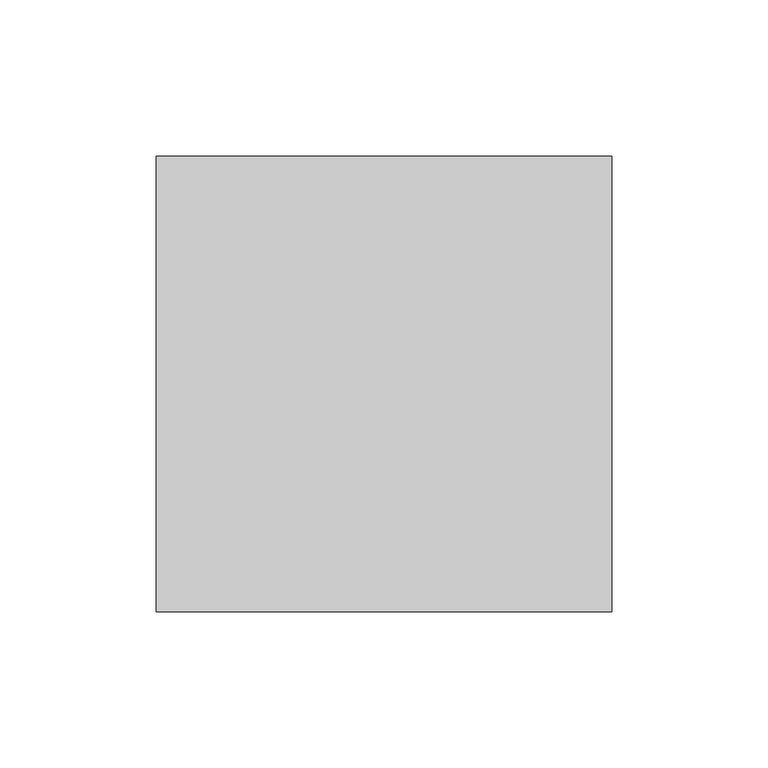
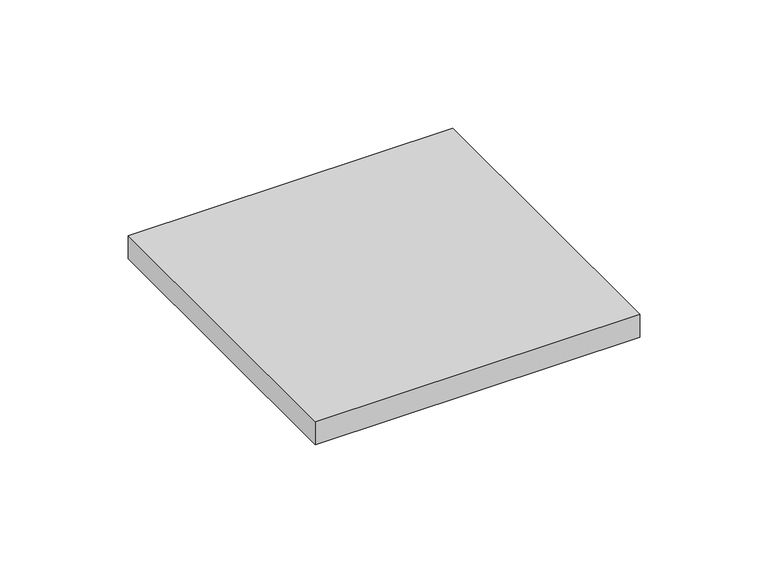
"""IFC4 building model written with IfcOpenShell, lengths in millimetres: sanitary terminal geometry, NLRS_PF_52_UN_Aqua Quattro_in_uitloop_Easydrain : Aqua Quattro onderuitloop 50mm, zij-ingang 40mm."""

import ifcopenshell
import ifcopenshell.guid

model = None  # the IFC model being written
_history = None  # IfcOwnerHistory: only IFC2X3 demands one
_inside = {}  # id of a spatial element -> (the spatial element, [elements in it])
_under = {}  # id of a project, library or spatial element -> (it, [spatial elements below it])
_declared = {}  # id of a project -> (the project, [libraries it declares])
_typed = {}  # id of a type object -> (the type object, [elements of that type])
_made_of = {}  # id of a material, layer set ... -> (it, [elements and type objects made of it])


def new_model(schema):
    """Start an empty IFC model of exactly this schema.

    Asked for "IFC4X3", IfcOpenShell would pick the latest addendum, in which some entities
    have other attributes; the version numbers below select the first issue.
    IFC2X3 requires an IfcOwnerHistory on every rooted entity: one is made here for all.
    """
    global model, _history
    if schema == "IFC4X3":
        model = ifcopenshell.file(schema_version=(4, 3, 0, 0))
    else:
        model = ifcopenshell.file(schema=schema)
    _inside.clear()
    _under.clear()
    _declared.clear()
    _typed.clear()
    _made_of.clear()
    _history = None
    if model.schema == "IFC2X3":
        org = make("IfcOrganization", Name="unknown")
        user = make(
            "IfcPersonAndOrganization",
            ThePerson=make("IfcPerson", FamilyName="unknown"),
            TheOrganization=org,
        )
        app = make(
            "IfcApplication",
            ApplicationDeveloper=org,
            Version="unknown",
            ApplicationFullName="unknown",
            ApplicationIdentifier="unknown",
        )
        _history = make(
            "IfcOwnerHistory",
            OwningUser=user,
            OwningApplication=app,
            ChangeAction="ADDED",
            CreationDate=0,
        )
    return model


def make(cls, **values):
    """One entity of the class cls with the attributes given. An attribute that is None is left unset."""
    return model.create_entity(
        cls, **{name: value for name, value in values.items() if value is not None}
    )


def rooted(cls, **values):
    """An entity with a GlobalId (a new one), such as an element, a storey or a relation."""
    return make(cls, GlobalId=ifcopenshell.guid.new(), OwnerHistory=_history, **values)


def si_unit(unit_type, name, prefix=None):
    """IfcSIUnit, for example si_unit("LENGTHUNIT", "METRE", prefix="MILLI")."""
    return make("IfcSIUnit", UnitType=unit_type, Prefix=prefix, Name=name)


def assignment(units):
    """IfcUnitAssignment: the units of a project."""
    return None if units is None else make("IfcUnitAssignment", Units=units)


def point(xyz):
    """IfcCartesianPoint."""
    return None if xyz is None else make("IfcCartesianPoint", Coordinates=xyz)


def direction(xyz):
    """IfcDirection."""
    return None if xyz is None else make("IfcDirection", DirectionRatios=xyz)


def frame(location, z_axis=None, x_axis=None):
    """IfcAxis2Placement3D, a coordinate frame: its origin and axes. An axis left out is left unset."""
    return make(
        "IfcAxis2Placement3D",
        Location=point(location),
        Axis=direction(z_axis),
        RefDirection=direction(x_axis),
    )


def origin():
    """The frame at (0, 0, 0) with its axes left unset."""
    return frame((0.0, 0.0, 0.0))


def place(relative_to, where):
    """IfcLocalPlacement: puts the frame where relative to a parent placement (None: the world)."""
    return make(
        "IfcLocalPlacement", PlacementRelTo=relative_to, RelativePlacement=where
    )


def context(
    kind, dimensions, precision=None, world=None, true_north=None, identifier=None
):
    """IfcGeometricRepresentationContext, for example the 3D "Model" context."""
    return make(
        "IfcGeometricRepresentationContext",
        ContextIdentifier=identifier,
        ContextType=kind,
        CoordinateSpaceDimension=dimensions,
        Precision=precision,
        WorldCoordinateSystem=world,
        TrueNorth=true_north,
    )


def project(units=None, contexts=None):
    """IfcProject with its units and contexts."""
    return rooted(
        "IfcProject",
        Name="project",
        RepresentationContexts=contexts,
        UnitsInContext=assignment(units),
    )


def spatial(cls, under=None, at=None, **own):
    """A site, building, storey or space (cls), placed at a placement, below another one or the project."""
    s = rooted(cls, ObjectPlacement=at, **own)
    if under is not None:
        _under.setdefault(under.id(), (under, []))[1].append(s)
    return s


def polyline(points):
    """IfcPolyline through the points."""
    return make("IfcPolyline", Points=[point(p) for p in points])


def outline(outer, holes=None, kind="AREA"):
    """IfcArbitraryClosedProfileDef: a profile drawn as a closed curve; with holes, ...WithVoids."""
    if holes is None:
        return make("IfcArbitraryClosedProfileDef", ProfileType=kind, OuterCurve=outer)
    return make(
        "IfcArbitraryProfileDefWithVoids",
        ProfileType=kind,
        OuterCurve=outer,
        InnerCurves=holes,
    )


def extrude(swept, where, along, depth):
    """IfcExtrudedAreaSolid: the profile swept, set in the frame where, extruded along a direction by depth."""
    return make(
        "IfcExtrudedAreaSolid",
        SweptArea=swept,
        Position=where,
        ExtrudedDirection=direction(along),
        Depth=depth,
    )


def shape(context_of_items, identifier, shape_type, items):
    """IfcShapeRepresentation: the items that make up one representation, for example the "Body"."""
    return make(
        "IfcShapeRepresentation",
        ContextOfItems=context_of_items,
        RepresentationIdentifier=identifier,
        RepresentationType=shape_type,
        Items=items,
    )


def source(mapping_origin, context_of_items, identifier, shape_type, items):
    """IfcRepresentationMap: a shape defined once, which mapped items show again and again."""
    return make(
        "IfcRepresentationMap",
        MappingOrigin=mapping_origin,
        MappedRepresentation=shape(context_of_items, identifier, shape_type, items),
    )


def transform(
    local_origin,
    x_axis=None,
    y_axis=None,
    z_axis=None,
    scale=None,
    scale2=None,
    scale3=None,
    uniform=True,
):
    """IfcCartesianTransformationOperator3D, or its non-uniform kind. x_axis, y_axis, z_axis: its Axis1, 2, 3."""
    if uniform:
        return make(
            "IfcCartesianTransformationOperator3D",
            Axis1=direction(x_axis),
            Axis2=direction(y_axis),
            LocalOrigin=point(local_origin),
            Scale=scale,
            Axis3=direction(z_axis),
        )
    return make(
        "IfcCartesianTransformationOperator3DnonUniform",
        Axis1=direction(x_axis),
        Axis2=direction(y_axis),
        LocalOrigin=point(local_origin),
        Scale=scale,
        Axis3=direction(z_axis),
        Scale2=scale2,
        Scale3=scale3,
    )


def mapped(mapping_source, mapping_target):
    """IfcMappedItem: shows the shape of a source again, moved by a transform."""
    return make(
        "IfcMappedItem", MappingSource=mapping_source, MappingTarget=mapping_target
    )


def made_of(thing, what):
    """Note that an element or type object is made of a material, layer set ...; save() writes the relation."""
    if what is not None:
        _made_of.setdefault(what.id(), (what, []))[1].append(thing)
    return thing


def element(
    cls,
    number,
    at=None,
    inside=None,
    cuts=None,
    type_object=None,
    material=None,
    context=None,
    identifier="Body",
    shape_type=None,
    held_by="IfcProductDefinitionShape",
    body=None,
    shapes=None,
    **own,
):
    """One element of the class cls, such as IfcWall. Its Tag is "e" and its number.

    at: its placement. inside: the storey or other place that contains it. cuts: it is an
    opening in that element (IfcRelVoidsElement). A single representation is given by context,
    identifier, shape_type and body (its items); several are given by shapes. held_by: the class
    of the entity that holds the representations. save() writes the other relations.
    """
    e = rooted(cls, Tag="e%d" % number, ObjectPlacement=at, **own)
    if body is not None:
        shapes = [shape(context, identifier, shape_type, body)]
    if shapes is not None:
        e.Representation = make(held_by, Representations=shapes)
    if inside is not None:
        _inside.setdefault(inside.id(), (inside, []))[1].append(e)
    if cuts is not None:
        rooted(
            "IfcRelVoidsElement", RelatingBuildingElement=cuts, RelatedOpeningElement=e
        )
    if type_object is not None:
        _typed.setdefault(type_object.id(), (type_object, []))[1].append(e)
    return made_of(e, material)


def aggregate(whole, parts):
    """IfcRelAggregates: a whole, such as a stair, and the parts it consists of."""
    return rooted("IfcRelAggregates", RelatingObject=whole, RelatedObjects=parts)


def save(model, path):
    """Write the relations noted so far, then the file.

    IfcRelAggregates (storeys below a building ...), IfcRelContainedInSpatialStructure (elements
    in a storey), IfcRelDefinesByType, IfcRelAssociatesMaterial and IfcRelDeclares: one each for
    every whole, place, type object, material and project.
    """
    for whole, parts in _under.values():
        aggregate(whole, parts)
    for where, things in _inside.values():
        rooted(
            "IfcRelContainedInSpatialStructure",
            RelatedElements=things,
            RelatingStructure=where,
        )
    for kind, things in _typed.values():
        rooted("IfcRelDefinesByType", RelatedObjects=things, RelatingType=kind)
    for what, things in _made_of.values():
        rooted("IfcRelAssociatesMaterial", RelatedObjects=things, RelatingMaterial=what)
    for by, libraries in _declared.values():
        rooted("IfcRelDeclares", RelatingContext=by, RelatedDefinitions=libraries)
    model.write(path)


def sanitary_terminal_14ebe62b(model_context):
    return source(origin(), model_context, "Body", "SweptSolid", [
        extrude(outline(polyline([(73.0, 73.0), (73.0, -73.0), (-73.0, -73.0), (-73.0, 73.0), (73.0, 73.0)])), frame((0.0, 0.0, -11.0), z_axis=(0.0, 0.0, 1.0), x_axis=(1.0, 0.0, 0.0)), (0.0, 0.0, 1.0), 11.0),
    ])


if __name__ == "__main__":
    model = new_model("IFC4")
    model_context = context("Model", 3, world=origin())
    ifc_project = project(units=[si_unit("LENGTHUNIT", "METRE", prefix="MILLI")], contexts=[model_context])
    site = spatial("IfcSite", under=ifc_project)
    building = spatial("IfcBuilding", under=site)
    placement = place(None, origin())
    sanitary_terminal_shape = sanitary_terminal_14ebe62b(model_context)
    element("IfcSanitaryTerminal", 1, ObjectType="NLRS_PF_52_UN_Aqua Quattro_in_uitloop_Easydrain : Aqua Quattro onderuitloop 50mm, zij-ingang 40mm", at=placement, inside=building, context=model_context, shape_type="MappedRepresentation", body=[
        mapped(sanitary_terminal_shape, transform((0.0, 0.0, 0.0), x_axis=(1.0, 0.0, 0.0), y_axis=(0.0, 1.0, 0.0), z_axis=(0.0, 0.0, 1.0))),
    ])
    save(model, "model.ifc")
